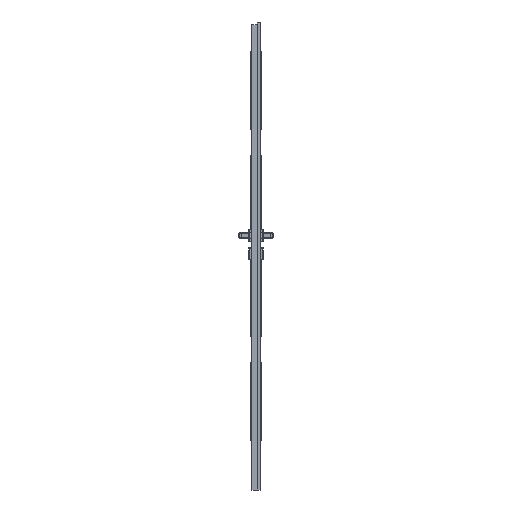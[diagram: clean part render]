
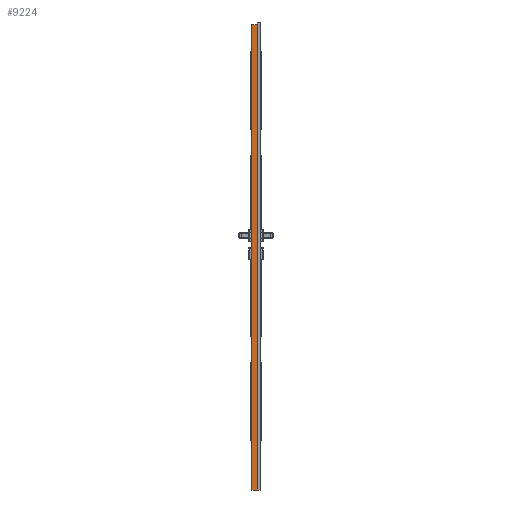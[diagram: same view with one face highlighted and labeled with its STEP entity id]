
A CAD part, left-side view. The second image highlights one B-rep face of the part: STEP entity #9224.
In plain terms, the highlighted planar face has unit normal (-1, 0, 0).
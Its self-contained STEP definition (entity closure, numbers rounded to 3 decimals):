
#5334=FACE_OUTER_BOUND('',#17896,.T.);
#9224=ADVANCED_FACE('',(#5334),#12760,.F.);
#12760=PLANE('',#69737);
#17896=EDGE_LOOP('',(#24998,#24999,#25000,#25001,#25002));
#24998=ORIENTED_EDGE('',*,*,#48875,.T.);
#24999=ORIENTED_EDGE('',*,*,#48881,.T.);
#25000=ORIENTED_EDGE('',*,*,#48882,.T.);
#25001=ORIENTED_EDGE('',*,*,#48883,.F.);
#25002=ORIENTED_EDGE('',*,*,#48884,.F.);
#42307=VERTEX_POINT('',#98910);
#42308=VERTEX_POINT('',#98912);
#42312=VERTEX_POINT('',#98924);
#42313=VERTEX_POINT('',#98926);
#42314=VERTEX_POINT('',#98928);
#48875=EDGE_CURVE('',#42308,#42307,#57883,.T.);
#48881=EDGE_CURVE('',#42307,#42312,#57889,.T.);
#48882=EDGE_CURVE('',#42312,#42313,#57890,.T.);
#48883=EDGE_CURVE('',#42314,#42313,#57891,.T.);
#48884=EDGE_CURVE('',#42308,#42314,#57892,.T.);
#57883=LINE('',#98911,#63631);
#57889=LINE('',#98923,#63637);
#57890=LINE('',#98925,#63638);
#57891=LINE('',#98927,#63639);
#57892=LINE('',#98929,#63640);
#63631=VECTOR('',#76528,1.);
#63637=VECTOR('',#76538,1.);
#63638=VECTOR('',#76539,1.);
#63639=VECTOR('',#76540,1.);
#63640=VECTOR('',#76541,1.);
#69737=AXIS2_PLACEMENT_3D('',#98930,#76542,#76543);
#76528=DIRECTION('',(0.,0.,-1.));
#76538=DIRECTION('',(0.,-0.707,-0.707));
#76539=DIRECTION('',(0.,-1.,0.));
#76540=DIRECTION('',(0.,0.,-1.));
#76541=DIRECTION('',(0.,-1.,0.));
#76542=DIRECTION('',(1.,0.,0.));
#76543=DIRECTION('',(0.,0.,-1.));
#98910=CARTESIAN_POINT('',(-309.,0.,2.));
#98911=CARTESIAN_POINT('',(-309.,0.,2030.));
#98912=CARTESIAN_POINT('',(-309.,0.,2017.));
#98923=CARTESIAN_POINT('',(-309.,0.,2.));
#98924=CARTESIAN_POINT('',(-309.,-2.,0.));
#98925=CARTESIAN_POINT('',(-309.,0.,0.));
#98926=CARTESIAN_POINT('',(-309.,-26.,0.));
#98927=CARTESIAN_POINT('',(-309.,-26.,2030.));
#98928=CARTESIAN_POINT('',(-309.,-26.,2017.));
#98929=CARTESIAN_POINT('',(-309.,0.,2017.));
#98930=CARTESIAN_POINT('',(-309.,0.,2030.));
